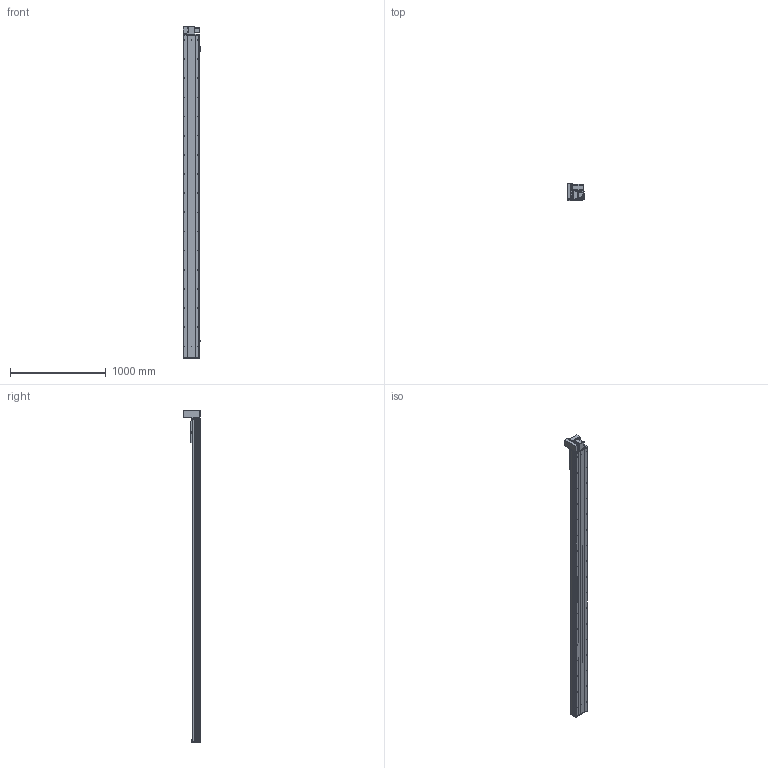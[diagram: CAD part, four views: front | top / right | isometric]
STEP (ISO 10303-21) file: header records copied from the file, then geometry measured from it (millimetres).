
FILE_DESCRIPTION (( 'STEP AP203' ), '1' );
FILE_NAME ('Y170CB-D105-S3050-UL-P400W.STEP', '2020-02-20T03:20:34', ( '微软用户' ), ( '微软中国' ), 'SwSTEP 2.0', 'SolidWorks 2017', '' );
FILE_SCHEMA (( 'CONFIG_CONTROL_DESIGN' ));
Length unit declared in the file: millimetre
Products named in the file (18): san松下电机400不带刹车----; Y100-135俋离換覜ん--; 70CB-掛极-; Y170CB-陔俋离換覜結え---; --70CB --喘謫眊楊擘啣-; 70B喘謫眊----; 70CB-耜裔啣-; Y1埴倛裔; 70C--詩湍揤踡え-; 17B-耜蚾蟀諉啣----; 70CB--耜裔; 00B-俋欶BM--163; 70C-雄赽釱-奻-; B-源倛裔啣; Y170CB-D105-S3050-UL-P400W; 0C--雄赽釱俋欶-170; 0B-萇儂楊擘啣; 70CB-詩湍--
Assembly tree (21 placements, depth 2):
  Y170CB-D105-S3050-UL-P400W
    B-源倛裔啣
    0B-萇儂楊擘啣
    san松下电机400不带刹车----
    70CB-掛极-
    --70CB --喘謫眊楊擘啣-
    70CB-耜裔啣-  x2
    70C--詩湍揤踡え-  x2
    70CB--耜裔
    70C-雄赽釱-奻-
    0C--雄赽釱俋欶-170
    70CB-詩湍--
    Y100-135俋离換覜ん--  x3
    Y170CB-陔俋离換覜結え---
    70B喘謫眊----
    Y1埴倛裔
    17B-耜蚾蟀諉啣----
    00B-俋欶BM--163
Bounding box: 183.5 x 174 x 3466 mm (x, y, z)
Volume: 14611437.8 mm3; surface area: 5282578.7 mm2
Topology: 21 solids, 21 shells, 1087 faces, 2933 edges, 1946 vertices
Faces by surface type: cylinder 601, plane 462, cone 24
Entity records: 34956 total; most frequent: CARTESIAN_POINT 6456, DIRECTION 5690, ORIENTED_EDGE 5348, EDGE_CURVE 2674, AXIS2_PLACEMENT_3D 2108, VERTEX_POINT 1776, LINE 1474, VECTOR 1474
